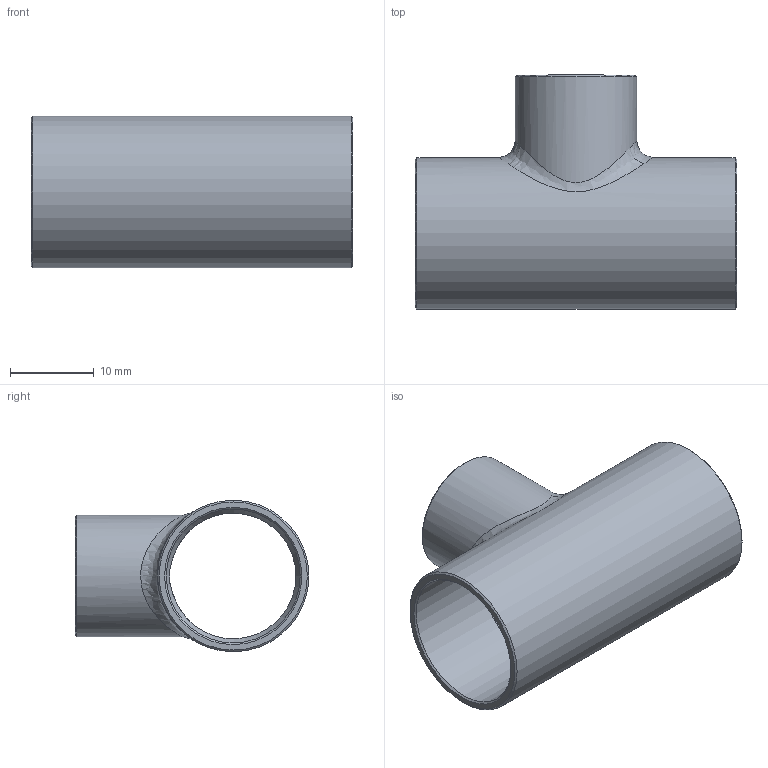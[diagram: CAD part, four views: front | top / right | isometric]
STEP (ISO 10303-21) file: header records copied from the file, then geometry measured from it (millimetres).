
FILE_DESCRIPTION((''),'2;1');
FILE_NAME('G:\SANHA-Ternat\Technik\Management\Bouwmaten + markeringen\z-maattekeningen 3D\29000s\29130581258_3d.stp','2017-07-31T15:50:05',('vdvijverd'),(''),'Autodesk Inventor 2009','Autodesk Inventor 2009','');
FILE_SCHEMA(('AUTOMOTIVE_DESIGN { 1 0 10303 214 1 1 1 1 }'));
Length unit declared in the file: millimetre
Products named in the file (1): 29130581258_3d
Bounding box: 38.4 x 27.95 x 18.1 mm (x, y, z)
Volume: 2800.6 mm3; surface area: 4901.4 mm2
Topology: 1 solids, 1 shells, 22 faces, 54 edges, 33 vertices
Faces by surface type: cone 8, cylinder 7, bspline 4, plane 3
Full cylindrical faces by diameter (mm): 12.82 x1, 14.5 x1, 15.995 x1, 18.1 x1
Entity records: 1904 total; most frequent: CARTESIAN_POINT 1473, DIRECTION 80, ORIENTED_EDGE 66, AXIS2_PLACEMENT_3D 40, EDGE_LOOP 40, EDGE_CURVE 33, VERTEX_POINT 27, FACE_OUTER_BOUND 22
